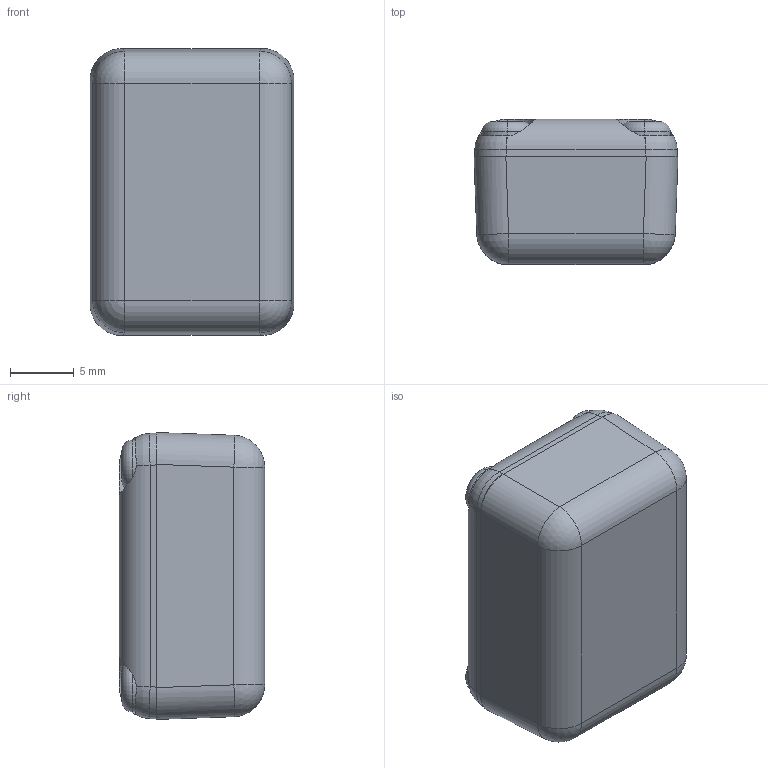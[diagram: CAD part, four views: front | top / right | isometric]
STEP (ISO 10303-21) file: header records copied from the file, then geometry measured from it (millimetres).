
FILE_DESCRIPTION (( 'STEP AP214' ), '1' );
FILE_NAME ('BMC-202-10.STEP', '2021-03-23T15:21:05', ( '' ), ( '' ), 'SwSTEP 2.0', 'SolidWorks 2016', '' );
FILE_SCHEMA (( 'AUTOMOTIVE_DESIGN' ));
Length unit declared in the file: millimetre
Products named in the file (4): BMC Screw; bmc-202 Bottom; BMC-202-10; bmc-202 Top
Assembly tree (6 placements, depth 2):
  BMC-202-10
    bmc-202 Bottom
    bmc-202 Top
    BMC Screw  x4
Bounding box: 16 x 11.4 x 22.5 mm (x, y, z)
Volume: 2041.1 mm3; surface area: 3280.8 mm2
Topology: 6 solids, 6 shells, 450 faces, 1168 edges, 766 vertices
Faces by surface type: plane 260, bspline 78, cylinder 72, cone 24, sphere 8, torus 8
Entity records: 15660 total; most frequent: CARTESIAN_POINT 7640, ORIENTED_EDGE 1764, DIRECTION 1372, EDGE_CURVE 882, VERTEX_POINT 580, VECTOR 540, LINE 540, AXIS2_PLACEMENT_3D 416
